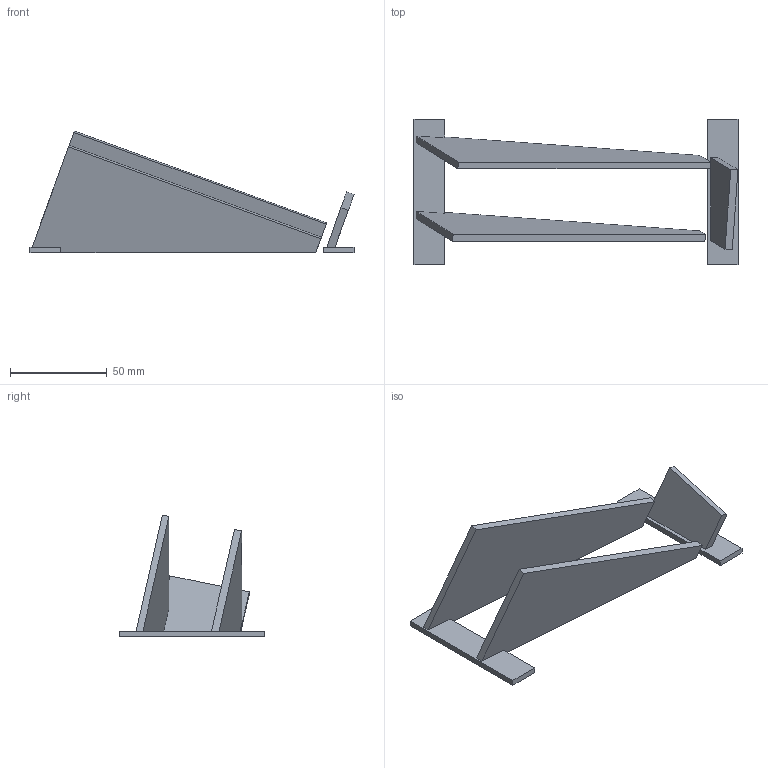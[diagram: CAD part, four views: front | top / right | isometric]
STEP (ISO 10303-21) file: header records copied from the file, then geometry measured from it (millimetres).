
FILE_DESCRIPTION(('Open CASCADE Model'),'2;1');
FILE_NAME('Open CASCADE Shape Model','2026-10-20T15:47:44',('Author'),( 'Open CASCADE'),'Open CASCADE STEP processor 8.0','build123d', 'Unknown');
FILE_SCHEMA(('AUTOMOTIVE_DESIGN { 1 0 10303 214 1 1 1 1 }'));
Length unit declared in the file: millimetre
Products named in the file (1): COMPOUND
Bounding box: 167.74 x 75.31 x 63.11 mm (x, y, z)
Volume: 49980.8 mm3; surface area: 31817 mm2
Topology: 2 solids, 2 shells, 29 faces, 72 edges, 48 vertices
Faces by surface type: plane 29
Entity records: 1756 total; most frequent: CARTESIAN_POINT 328, DIRECTION 242, LINE 182, VECTOR 182, ORIENTED_EDGE 144, PCURVE 144, DEFINITIONAL_REPRESENTATION 144, EDGE_CURVE 72
